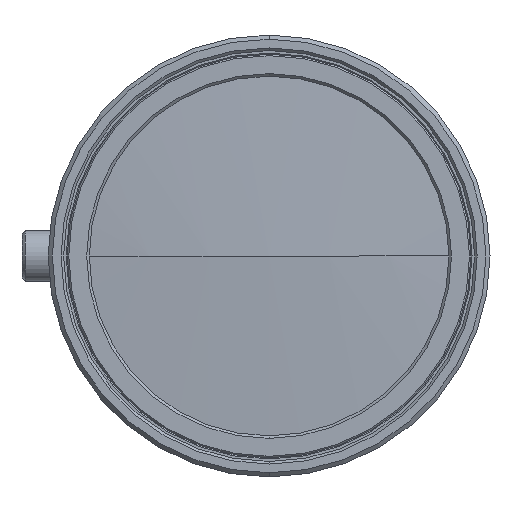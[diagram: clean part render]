
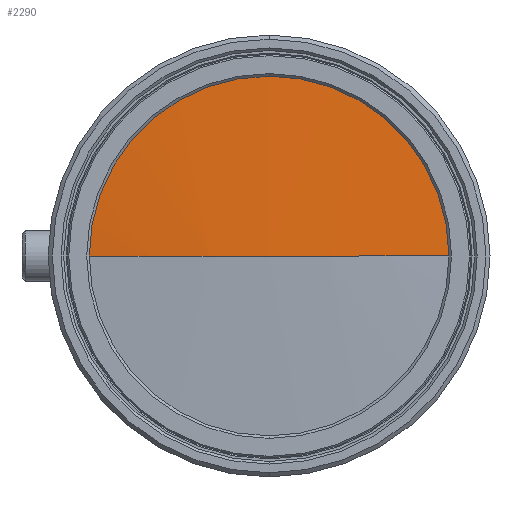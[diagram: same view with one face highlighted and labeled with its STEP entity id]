
A CAD part, left-side view. The second image highlights one B-rep face of the part: STEP entity #2290.
In plain terms, the highlighted spherical face has radius 200 mm.
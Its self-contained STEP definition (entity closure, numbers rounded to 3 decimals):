
#193 = VERTEX_POINT ( 'NONE', #1329 ) ;
#281 = ORIENTED_EDGE ( 'NONE', *, *, #2767, .F. ) ;
#400 = CIRCLE ( 'NONE', #1044, 200. ) ;
#416 = ORIENTED_EDGE ( 'NONE', *, *, #1471, .F. ) ;
#452 = CIRCLE ( 'NONE', #908, 17.5 ) ;
#521 = CARTESIAN_POINT ( 'NONE',  ( -16.006, 0., 0. ) ) ;
#565 = VERTEX_POINT ( 'NONE', #1466 ) ;
#619 = CARTESIAN_POINT ( 'NONE',  ( -215.239, 0., 17.5 ) ) ;
#773 = AXIS2_PLACEMENT_3D ( 'NONE', #2047, #2060, #1075 ) ;
#781 = AXIS2_PLACEMENT_3D ( 'NONE', #521, #1217, #2399 ) ;
#785 = FACE_OUTER_BOUND ( 'NONE', #1644, .T. ) ;
#908 = AXIS2_PLACEMENT_3D ( 'NONE', #937, #2391, #1420 ) ;
#915 = CARTESIAN_POINT ( 'NONE',  ( -216.006, 0., 0. ) ) ;
#928 = SPHERICAL_SURFACE ( 'NONE', #781, 200. ) ;
#937 = CARTESIAN_POINT ( 'NONE',  ( -215.239, 0., 0. ) ) ;
#941 = CIRCLE ( 'NONE', #3071, 17.5 ) ;
#1008 = VERTEX_POINT ( 'NONE', #915 ) ;
#1044 = AXIS2_PLACEMENT_3D ( 'NONE', #1545, #2012, #2025 ) ;
#1075 = DIRECTION ( 'NONE',  ( -1., 0., 0. ) ) ;
#1078 = EDGE_CURVE ( 'NONE', #565, #3079, #941, .T. ) ;
#1217 = DIRECTION ( 'NONE',  ( 0., 0., 1. ) ) ;
#1235 = ORIENTED_EDGE ( 'NONE', *, *, #3044, .T. ) ;
#1237 = ORIENTED_EDGE ( 'NONE', *, *, #1078, .F. ) ;
#1329 = CARTESIAN_POINT ( 'NONE',  ( -215.239, -17.5, 0. ) ) ;
#1420 = DIRECTION ( 'NONE',  ( 0., 0., -1. ) ) ;
#1466 = CARTESIAN_POINT ( 'NONE',  ( -215.239, 17.5, 0. ) ) ;
#1471 = EDGE_CURVE ( 'NONE', #1008, #565, #2658, .T. ) ;
#1545 = CARTESIAN_POINT ( 'NONE',  ( -16.006, 0., 0. ) ) ;
#1644 = EDGE_LOOP ( 'NONE', ( #416, #1235, #281, #1237 ) ) ;
#2012 = DIRECTION ( 'NONE',  ( 0., 0., 1. ) ) ;
#2025 = DIRECTION ( 'NONE',  ( 0., -1., 0. ) ) ;
#2047 = CARTESIAN_POINT ( 'NONE',  ( -16.006, 0., 0. ) ) ;
#2060 = DIRECTION ( 'NONE',  ( 0., 0., -1. ) ) ;
#2210 = CARTESIAN_POINT ( 'NONE',  ( -215.239, 0., 0. ) ) ;
#2290 = ADVANCED_FACE ( 'NONE', ( #785 ), #928, .T. ) ;
#2391 = DIRECTION ( 'NONE',  ( 1., 0., 0. ) ) ;
#2399 = DIRECTION ( 'NONE',  ( 0., 1., 0. ) ) ;
#2466 = DIRECTION ( 'NONE',  ( 1., 0., 0. ) ) ;
#2658 = CIRCLE ( 'NONE', #773, 200. ) ;
#2728 = DIRECTION ( 'NONE',  ( 0., 0., -1. ) ) ;
#2767 = EDGE_CURVE ( 'NONE', #3079, #193, #452, .T. ) ;
#3044 = EDGE_CURVE ( 'NONE', #1008, #193, #400, .T. ) ;
#3071 = AXIS2_PLACEMENT_3D ( 'NONE', #2210, #2466, #2728 ) ;
#3079 = VERTEX_POINT ( 'NONE', #619 ) ;
